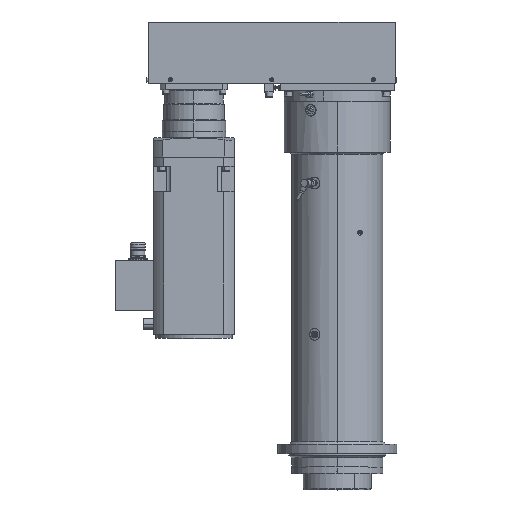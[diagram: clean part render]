
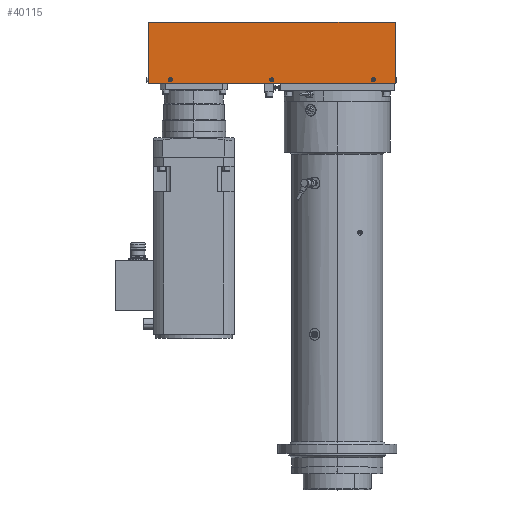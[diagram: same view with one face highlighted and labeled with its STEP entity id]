
A CAD part, top view. The second image highlights one B-rep face of the part: STEP entity #40115.
In plain terms, the highlighted planar face has unit normal (0, 0, 1).
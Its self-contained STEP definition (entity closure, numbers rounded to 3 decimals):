
#689 = DIRECTION ( 'NONE',  ( 1., 0., 0. ) ) ;
#2456 = CIRCLE ( 'NONE', #26618, 3.5 ) ;
#2710 = EDGE_CURVE ( 'NONE', #15424, #39818, #57668, .T. ) ;
#2971 = CIRCLE ( 'NONE', #10472, 3.5 ) ;
#3282 = DIRECTION ( 'NONE',  ( 1., 0., 0. ) ) ;
#3368 = DIRECTION ( 'NONE',  ( 1., 0., 0. ) ) ;
#3980 = CARTESIAN_POINT ( 'NONE',  ( -483.346, 396.176, 136.75 ) ) ;
#4113 = LINE ( 'NONE', #12287, #41059 ) ;
#4996 = EDGE_LOOP ( 'NONE', ( #41140, #13480, #38785, #9444 ) ) ;
#6628 = CARTESIAN_POINT ( 'NONE',  ( -428.096, 404.676, 136.75 ) ) ;
#7027 = EDGE_CURVE ( 'NONE', #19207, #39491, #27581, .T. ) ;
#7481 = CARTESIAN_POINT ( 'NONE',  ( 99.154, 541.176, 136.75 ) ) ;
#7747 = FACE_OUTER_BOUND ( 'NONE', #4996, .T. ) ;
#8251 = AXIS2_PLACEMENT_3D ( 'NONE', #50668, #22941, #55307 ) ;
#9005 = PLANE ( 'NONE',  #46817 ) ;
#9444 = ORIENTED_EDGE ( 'NONE', *, *, #39941, .T. ) ;
#10472 = AXIS2_PLACEMENT_3D ( 'NONE', #46232, #18529, #50909 ) ;
#10800 = VERTEX_POINT ( 'NONE', #33305 ) ;
#11639 = CIRCLE ( 'NONE', #19257, 3.5 ) ;
#12059 = EDGE_LOOP ( 'NONE', ( #26190, #28675 ) ) ;
#12287 = CARTESIAN_POINT ( 'NONE',  ( -483.346, 541.176, 136.75 ) ) ;
#13480 = ORIENTED_EDGE ( 'NONE', *, *, #23977, .F. ) ;
#13495 = DIRECTION ( 'NONE',  ( 0., 0., 1. ) ) ;
#13646 = CIRCLE ( 'NONE', #8251, 3.5 ) ;
#14832 = DIRECTION ( 'NONE',  ( 0., 0., 1. ) ) ;
#15184 = CARTESIAN_POINT ( 'NONE',  ( -435.096, 404.676, 136.75 ) ) ;
#15347 = EDGE_CURVE ( 'NONE', #10800, #56064, #2456, .T. ) ;
#15424 = VERTEX_POINT ( 'NONE', #15184 ) ;
#17968 = VECTOR ( 'NONE', #3368, 1000. ) ;
#18342 = DIRECTION ( 'NONE',  ( 0., 0., -1. ) ) ;
#18349 = VERTEX_POINT ( 'NONE', #25103 ) ;
#18529 = DIRECTION ( 'NONE',  ( 0., 0., 1. ) ) ;
#18759 = VERTEX_POINT ( 'NONE', #3980 ) ;
#19207 = VERTEX_POINT ( 'NONE', #48928 ) ;
#19257 = AXIS2_PLACEMENT_3D ( 'NONE', #25589, #57960, #30250 ) ;
#19984 = CARTESIAN_POINT ( 'NONE',  ( 99.154, 541.176, 136.75 ) ) ;
#20097 = FACE_BOUND ( 'NONE', #42334, .T. ) ;
#20232 = AXIS2_PLACEMENT_3D ( 'NONE', #41141, #13495, #45826 ) ;
#21736 = CARTESIAN_POINT ( 'NONE',  ( -483.346, 541.176, 136.75 ) ) ;
#22941 = DIRECTION ( 'NONE',  ( 0., 0., 1. ) ) ;
#23705 = EDGE_CURVE ( 'NONE', #39818, #15424, #11639, .T. ) ;
#23977 = EDGE_CURVE ( 'NONE', #39491, #18349, #60110, .T. ) ;
#24477 = LINE ( 'NONE', #54412, #17968 ) ;
#25103 = CARTESIAN_POINT ( 'NONE',  ( 99.154, 396.176, 136.75 ) ) ;
#25420 = EDGE_CURVE ( 'NONE', #18759, #18349, #24477, .T. ) ;
#25589 = CARTESIAN_POINT ( 'NONE',  ( -431.596, 404.676, 136.75 ) ) ;
#26143 = VECTOR ( 'NONE', #3282, 1000. ) ;
#26190 = ORIENTED_EDGE ( 'NONE', *, *, #52252, .F. ) ;
#26618 = AXIS2_PLACEMENT_3D ( 'NONE', #56217, #28498, #689 ) ;
#27110 = CARTESIAN_POINT ( 'NONE',  ( 43.904, 404.676, 136.75 ) ) ;
#27581 = LINE ( 'NONE', #21736, #26143 ) ;
#28498 = DIRECTION ( 'NONE',  ( 0., 0., 1. ) ) ;
#28675 = ORIENTED_EDGE ( 'NONE', *, *, #44775, .F. ) ;
#30250 = DIRECTION ( 'NONE',  ( 1., 0., 0. ) ) ;
#30931 = CIRCLE ( 'NONE', #40934, 3.5 ) ;
#31916 = CARTESIAN_POINT ( 'NONE',  ( -483.346, 541.176, 136.75 ) ) ;
#32412 = FACE_BOUND ( 'NONE', #51985, .T. ) ;
#33305 = CARTESIAN_POINT ( 'NONE',  ( -188.596, 404.676, 136.75 ) ) ;
#33973 = DIRECTION ( 'NONE',  ( 0., -1., 0. ) ) ;
#34095 = VECTOR ( 'NONE', #33973, 1000. ) ;
#36027 = ORIENTED_EDGE ( 'NONE', *, *, #15347, .F. ) ;
#38785 = ORIENTED_EDGE ( 'NONE', *, *, #7027, .F. ) ;
#39302 = ORIENTED_EDGE ( 'NONE', *, *, #23705, .F. ) ;
#39491 = VERTEX_POINT ( 'NONE', #7481 ) ;
#39818 = VERTEX_POINT ( 'NONE', #6628 ) ;
#39941 = EDGE_CURVE ( 'NONE', #19207, #18759, #4113, .T. ) ;
#39993 = DIRECTION ( 'NONE',  ( 0., -1., 0. ) ) ;
#40115 = ADVANCED_FACE ( 'NONE', ( #32412, #44689, #20097, #7747 ), #9005, .F. ) ;
#40934 = AXIS2_PLACEMENT_3D ( 'NONE', #42484, #14832, #47151 ) ;
#41059 = VECTOR ( 'NONE', #39993, 1000. ) ;
#41140 = ORIENTED_EDGE ( 'NONE', *, *, #25420, .T. ) ;
#41141 = CARTESIAN_POINT ( 'NONE',  ( -431.596, 404.676, 136.75 ) ) ;
#41510 = VERTEX_POINT ( 'NONE', #55612 ) ;
#42334 = EDGE_LOOP ( 'NONE', ( #39302, #44372 ) ) ;
#42484 = CARTESIAN_POINT ( 'NONE',  ( 47.404, 404.676, 136.75 ) ) ;
#42759 = ORIENTED_EDGE ( 'NONE', *, *, #55303, .F. ) ;
#44372 = ORIENTED_EDGE ( 'NONE', *, *, #2710, .F. ) ;
#44689 = FACE_BOUND ( 'NONE', #12059, .T. ) ;
#44775 = EDGE_CURVE ( 'NONE', #56393, #41510, #13646, .T. ) ;
#45826 = DIRECTION ( 'NONE',  ( 1., 0., 0. ) ) ;
#46232 = CARTESIAN_POINT ( 'NONE',  ( -192.096, 404.676, 136.75 ) ) ;
#46817 = AXIS2_PLACEMENT_3D ( 'NONE', #31916, #18342, #50723 ) ;
#47151 = DIRECTION ( 'NONE',  ( -1., 0., 0. ) ) ;
#48928 = CARTESIAN_POINT ( 'NONE',  ( -483.346, 541.176, 136.75 ) ) ;
#50668 = CARTESIAN_POINT ( 'NONE',  ( 47.404, 404.676, 136.75 ) ) ;
#50723 = DIRECTION ( 'NONE',  ( -1., 0., 0. ) ) ;
#50909 = DIRECTION ( 'NONE',  ( 1., 0., 0. ) ) ;
#51985 = EDGE_LOOP ( 'NONE', ( #36027, #42759 ) ) ;
#52252 = EDGE_CURVE ( 'NONE', #41510, #56393, #30931, .T. ) ;
#54412 = CARTESIAN_POINT ( 'NONE',  ( -483.346, 396.176, 136.75 ) ) ;
#55303 = EDGE_CURVE ( 'NONE', #56064, #10800, #2971, .T. ) ;
#55307 = DIRECTION ( 'NONE',  ( -1., 0., 0. ) ) ;
#55612 = CARTESIAN_POINT ( 'NONE',  ( 50.904, 404.676, 136.75 ) ) ;
#56064 = VERTEX_POINT ( 'NONE', #57093 ) ;
#56217 = CARTESIAN_POINT ( 'NONE',  ( -192.096, 404.676, 136.75 ) ) ;
#56393 = VERTEX_POINT ( 'NONE', #27110 ) ;
#57093 = CARTESIAN_POINT ( 'NONE',  ( -195.596, 404.676, 136.75 ) ) ;
#57668 = CIRCLE ( 'NONE', #20232, 3.5 ) ;
#57960 = DIRECTION ( 'NONE',  ( 0., 0., 1. ) ) ;
#60110 = LINE ( 'NONE', #19984, #34095 ) ;
